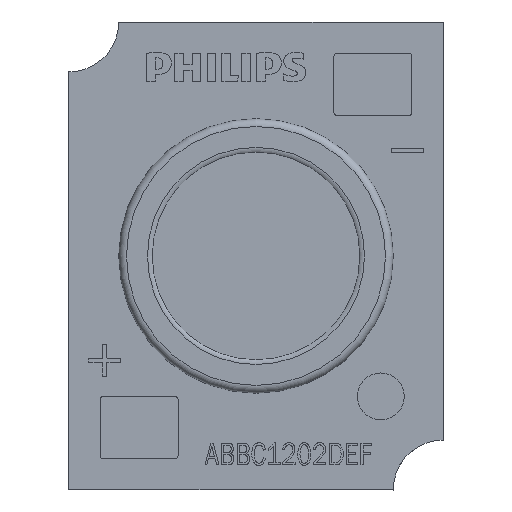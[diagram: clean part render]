
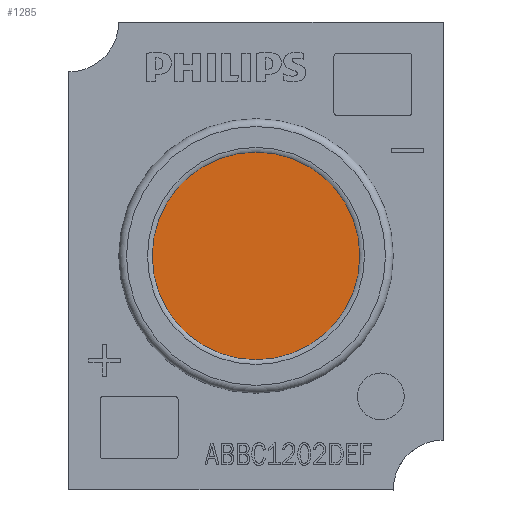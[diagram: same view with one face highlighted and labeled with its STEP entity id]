
A CAD part, top view. The second image highlights one B-rep face of the part: STEP entity #1285.
In plain terms, the highlighted planar face has unit normal (0, 0, 1).
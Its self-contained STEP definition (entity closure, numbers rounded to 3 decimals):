
#866=FACE_OUTER_BOUND('',#2180,.T.);
#1285=ADVANCED_FACE('',(#866),#1668,.T.);
#1668=PLANE('',#8737);
#2180=EDGE_LOOP('',(#4499));
#2211=CIRCLE('',#8736,3.329);
#4499=ORIENTED_EDGE('',*,*,#6416,.T.);
#5270=VERTEX_POINT('',#14203);
#6416=EDGE_CURVE('',#5270,#5270,#2211,.T.);
#8736=AXIS2_PLACEMENT_3D('',#14202,#10541,#10542);
#8737=AXIS2_PLACEMENT_3D('',#14204,#10543,#10544);
#10541=DIRECTION('',(0.,0.,1.));
#10542=DIRECTION('',(-1.,0.,0.));
#10543=DIRECTION('',(0.,0.,1.));
#10544=DIRECTION('',(-1.,0.,0.));
#14202=CARTESIAN_POINT('',(0.,0.,1.55));
#14203=CARTESIAN_POINT('',(-3.329,0.,1.55));
#14204=CARTESIAN_POINT('',(0.,0.,1.55));
